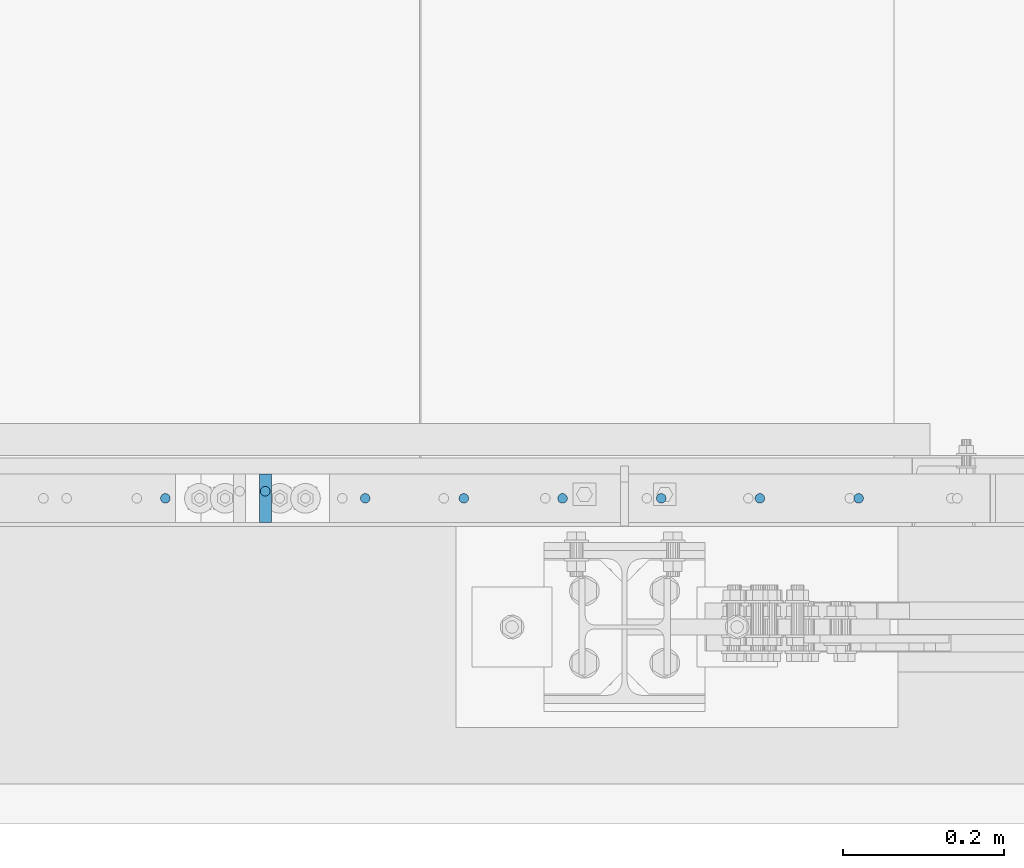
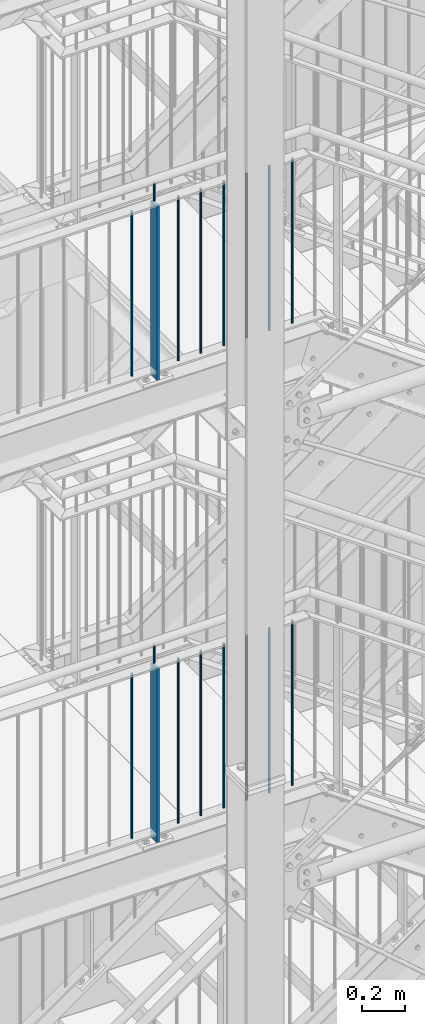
# One storey, part 10 of 825: 18 columns.
"""IFC2X3 building model written with IfcOpenShell, lengths in millimetres."""

from ifc_helpers import new_model, entity, si_unit, converted_unit, frame, origin, origin_with_axes, origin_2d, place, context, project, spatial, rectangle, circle, extrude, clip, halfspace, material, element, save


model = new_model("IFC2X3")

# Units and contexts
model_context = context("Model", 3, precision=1e-09, world=origin_with_axes())
ifc_project = project(units=[si_unit("LENGTHUNIT", "METRE", prefix="MILLI"), si_unit("AREAUNIT", "SQUARE_METRE"), si_unit("VOLUMEUNIT", "CUBIC_METRE"), converted_unit("PLANEANGLEUNIT", "DEGREE", entity("IfcPlaneAngleMeasure", 0.01745329), si_unit("PLANEANGLEUNIT", "RADIAN"), dimensions=[0, 0, 0, 0, 0, 0, 0])], contexts=[model_context])

# Site, building, storey
site_placement = place(None, origin_with_axes())
site = spatial("IfcSite", under=ifc_project, at=site_placement, Name="Cnopf'sche Kinderklinik", CompositionType="ELEMENT")
building_placement = place(site_placement, origin_with_axes())
building = spatial("IfcBuilding", under=site, at=building_placement, Name="Struktur 1", CompositionType="ELEMENT")
storey_placement = place(building_placement, origin_with_axes())
storey = spatial("IfcBuildingStorey", under=building, at=storey_placement, Name="Default Storey", CompositionType="ELEMENT", Elevation=0.0)

# Columns
ifc_material = material(Name="S235JR")
column_1_placement = place(None, frame((4409.791688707, 4526.736971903, 8359.723292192), z_axis=(0.0, 0.0, 1.0), x_axis=(-1.0, 0.0, 0.0)))
element("IfcColumn", 1, at=column_1_placement, inside=storey, material=ifc_material, Name="Railing_Post_Landing#12", ObjectType="Railing_Post_Landing#12", context=model_context, shape_type="Clipping", body=[
    clip(clip(extrude(rectangle(XDim=15.0, YDim=60.0, at=origin_2d()), origin(), (0.0, 0.0, -1.0), 1070.646584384), halfspace(frame((4409.791688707, 4526.736971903, -1019.722292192), z_axis=(0.0, 0.0, 1.0), x_axis=(-1.0, 0.0, 0.0)), True)), halfspace(frame((4409.791688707, 4526.736971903, -30.924292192), z_axis=(0.0, 0.0, -1.0), x_axis=(1.0, 0.0, 0.0)), True)),
])
column_2_placement = place(None, frame((5147.791807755, 4526.736971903, 8342.285281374), z_axis=(0.0, 0.0, 1.0), x_axis=(-1.0, 0.0, 0.0)))
element("IfcColumn", 2, at=column_2_placement, inside=storey, material=ifc_material, Name="Railing_Picket_Landing#77", ObjectType="Railing_Picket_Landing#77", context=model_context, shape_type="Clipping", body=[
    clip(clip(extrude(circle(Radius=6.0, at=origin_2d()), origin(), (0.0, 0.0, -1.0), 965.770562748), halfspace(frame((5147.791807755, 4526.736971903, -13.486281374), z_axis=(0.0, 0.0, -1.0), x_axis=(1.0, 0.0, 0.0)), True)), halfspace(frame((5147.791807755, 4526.736971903, -952.284281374), z_axis=(0.0, 0.0, 1.0), x_axis=(-1.0, 0.0, 0.0)), True)),
])
column_3_placement = place(None, frame((5025.041783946, 4526.736971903, 8342.285281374), z_axis=(0.0, 0.0, 1.0), x_axis=(-1.0, 0.0, 0.0)))
element("IfcColumn", 3, at=column_3_placement, inside=storey, material=ifc_material, Name="Railing_Picket_Landing#78", ObjectType="Railing_Picket_Landing#78", context=model_context, shape_type="Clipping", body=[
    clip(clip(extrude(circle(Radius=6.0, at=origin_2d()), origin(), (0.0, 0.0, -1.0), 965.770562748), halfspace(frame((5025.041783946, 4526.736971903, -13.486281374), z_axis=(0.0, 0.0, -1.0), x_axis=(1.0, 0.0, 0.0)), True)), halfspace(frame((5025.041783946, 4526.736971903, -952.284281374), z_axis=(0.0, 0.0, 1.0), x_axis=(-1.0, 0.0, 0.0)), True)),
])
column_4_placement = place(None, frame((4902.291760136, 4526.736971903, 8342.285281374), z_axis=(0.0, 0.0, 1.0), x_axis=(-1.0, 0.0, 0.0)))
element("IfcColumn", 4, at=column_4_placement, inside=storey, material=ifc_material, Name="Railing_Picket_Landing#79", ObjectType="Railing_Picket_Landing#79", context=model_context, shape_type="Clipping", body=[
    clip(clip(extrude(circle(Radius=6.0, at=origin_2d()), origin(), (0.0, 0.0, -1.0), 965.770562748), halfspace(frame((4902.291760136, 4526.736971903, -13.486281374), z_axis=(0.0, 0.0, -1.0), x_axis=(1.0, 0.0, 0.0)), True)), halfspace(frame((4902.291760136, 4526.736971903, -952.284281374), z_axis=(0.0, 0.0, 1.0), x_axis=(-1.0, 0.0, 0.0)), True)),
])
column_5_placement = place(None, frame((4779.541736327, 4526.736971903, 8342.285281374), z_axis=(0.0, 0.0, 1.0), x_axis=(-1.0, 0.0, 0.0)))
element("IfcColumn", 5, at=column_5_placement, inside=storey, material=ifc_material, Name="Railing_Picket_Landing#80", ObjectType="Railing_Picket_Landing#80", context=model_context, shape_type="Clipping", body=[
    clip(clip(extrude(circle(Radius=6.0, at=origin_2d()), origin(), (0.0, 0.0, -1.0), 965.770562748), halfspace(frame((4779.541736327, 4526.736971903, -13.486281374), z_axis=(0.0, 0.0, -1.0), x_axis=(1.0, 0.0, 0.0)), True)), halfspace(frame((4779.541736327, 4526.736971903, -952.284281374), z_axis=(0.0, 0.0, 1.0), x_axis=(-1.0, 0.0, 0.0)), True)),
])
column_6_placement = place(None, frame((4656.791712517, 4526.736971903, 8342.285281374), z_axis=(0.0, 0.0, 1.0), x_axis=(-1.0, 0.0, 0.0)))
element("IfcColumn", 6, at=column_6_placement, inside=storey, material=ifc_material, Name="Railing_Picket_Landing#81", ObjectType="Railing_Picket_Landing#81", context=model_context, shape_type="Clipping", body=[
    clip(clip(extrude(circle(Radius=6.0, at=origin_2d()), origin(), (0.0, 0.0, -1.0), 965.770562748), halfspace(frame((4656.791712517, 4526.736971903, -13.486281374), z_axis=(0.0, 0.0, -1.0), x_axis=(1.0, 0.0, 0.0)), True)), halfspace(frame((4656.791712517, 4526.736971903, -952.284281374), z_axis=(0.0, 0.0, 1.0), x_axis=(-1.0, 0.0, 0.0)), True)),
])
column_7_placement = place(None, frame((4534.041688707, 4526.736971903, 8342.285281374), z_axis=(0.0, 0.0, 1.0), x_axis=(-1.0, 0.0, 0.0)))
element("IfcColumn", 7, at=column_7_placement, inside=storey, material=ifc_material, Name="Railing_Picket_Landing#82", ObjectType="Railing_Picket_Landing#82", context=model_context, shape_type="Clipping", body=[
    clip(clip(extrude(circle(Radius=6.0, at=origin_2d()), origin(), (0.0, 0.0, -1.0), 965.770562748), halfspace(frame((4534.041688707, 4526.736971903, -13.486281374), z_axis=(0.0, 0.0, -1.0), x_axis=(1.0, 0.0, 0.0)), True)), halfspace(frame((4534.041688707, 4526.736971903, -952.284281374), z_axis=(0.0, 0.0, 1.0), x_axis=(-1.0, 0.0, 0.0)), True)),
])
column_8_placement = place(None, frame((4285.541688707, 4526.736971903, 8342.285281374), z_axis=(0.0, 0.0, 1.0), x_axis=(-1.0, 0.0, 0.0)))
element("IfcColumn", 8, at=column_8_placement, inside=storey, material=ifc_material, Name="Railing_Picket_Landing#83", ObjectType="Railing_Picket_Landing#83", context=model_context, shape_type="Clipping", body=[
    clip(clip(extrude(circle(Radius=6.0, at=origin_2d()), origin(), (0.0, 0.0, -1.0), 965.770562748), halfspace(frame((4285.541688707, 4526.736971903, -13.486281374), z_axis=(0.0, 0.0, -1.0), x_axis=(1.0, 0.0, 0.0)), True)), halfspace(frame((4285.541688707, 4526.736971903, -952.284281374), z_axis=(0.0, 0.0, 1.0), x_axis=(-1.0, 0.0, 0.0)), True)),
])
column_9_placement = place(None, frame((4409.791688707, 4535.536971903, 8447.285281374), z_axis=(0.0, 0.0, 1.0), x_axis=(0.0, 1.0, 0.0)))
element("IfcColumn", 9, at=column_9_placement, inside=storey, material=ifc_material, Name="Bar#12", ObjectType="Bar#12", context=model_context, shape_type="Clipping", body=[
    clip(clip(extrude(circle(Radius=6.0, at=origin_2d()), origin(), (0.0, 0.0, -1.0), 116.970562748), halfspace(frame((-4535.536971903, 4409.791688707, -8.486281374), z_axis=(0.0, 0.0, -1.0), x_axis=(0.0, 1.0, 0.0)), True)), halfspace(frame((-4535.536971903, 4409.791688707, -108.484281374), z_axis=(0.0, 0.0, 1.0), x_axis=(0.0, -1.0, 0.0)), True)),
])
column_10_placement = place(None, frame((4409.791688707, 4526.736971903, 10991.723292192), z_axis=(0.0, 0.0, 1.0), x_axis=(-1.0, 0.0, 0.0)))
element("IfcColumn", 10, at=column_10_placement, inside=storey, material=ifc_material, Name="Railing_Post_Landing#12", ObjectType="Railing_Post_Landing#12", context=model_context, shape_type="Clipping", body=[
    clip(clip(extrude(rectangle(XDim=15.0, YDim=60.0, at=origin_2d()), origin(), (0.0, 0.0, -1.0), 1070.646584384), halfspace(frame((4409.791688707, 4526.736971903, -1019.722292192), z_axis=(0.0, 0.0, 1.0), x_axis=(-1.0, 0.0, 0.0)), True)), halfspace(frame((4409.791688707, 4526.736971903, -30.924292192), z_axis=(0.0, 0.0, -1.0), x_axis=(1.0, 0.0, 0.0)), True)),
])
column_11_placement = place(None, frame((5147.791807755, 4526.736971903, 10974.285281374), z_axis=(0.0, 0.0, 1.0), x_axis=(-1.0, 0.0, 0.0)))
element("IfcColumn", 11, at=column_11_placement, inside=storey, material=ifc_material, Name="Railing_Picket_Landing#77", ObjectType="Railing_Picket_Landing#77", context=model_context, shape_type="Clipping", body=[
    clip(clip(extrude(circle(Radius=6.0, at=origin_2d()), origin(), (0.0, 0.0, -1.0), 965.770562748), halfspace(frame((5147.791807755, 4526.736971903, -13.486281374), z_axis=(0.0, 0.0, -1.0), x_axis=(1.0, 0.0, 0.0)), True)), halfspace(frame((5147.791807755, 4526.736971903, -952.284281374), z_axis=(0.0, 0.0, 1.0), x_axis=(-1.0, 0.0, 0.0)), True)),
])
column_12_placement = place(None, frame((5025.041783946, 4526.736971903, 10974.285281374), z_axis=(0.0, 0.0, 1.0), x_axis=(-1.0, 0.0, 0.0)))
element("IfcColumn", 12, at=column_12_placement, inside=storey, material=ifc_material, Name="Railing_Picket_Landing#78", ObjectType="Railing_Picket_Landing#78", context=model_context, shape_type="Clipping", body=[
    clip(clip(extrude(circle(Radius=6.0, at=origin_2d()), origin(), (0.0, 0.0, -1.0), 965.770562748), halfspace(frame((5025.041783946, 4526.736971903, -13.486281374), z_axis=(0.0, 0.0, -1.0), x_axis=(1.0, 0.0, 0.0)), True)), halfspace(frame((5025.041783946, 4526.736971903, -952.284281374), z_axis=(0.0, 0.0, 1.0), x_axis=(-1.0, 0.0, 0.0)), True)),
])
column_13_placement = place(None, frame((4902.291760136, 4526.736971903, 10974.285281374), z_axis=(0.0, 0.0, 1.0), x_axis=(-1.0, 0.0, 0.0)))
element("IfcColumn", 13, at=column_13_placement, inside=storey, material=ifc_material, Name="Railing_Picket_Landing#79", ObjectType="Railing_Picket_Landing#79", context=model_context, shape_type="Clipping", body=[
    clip(clip(extrude(circle(Radius=6.0, at=origin_2d()), origin(), (0.0, 0.0, -1.0), 965.770562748), halfspace(frame((4902.291760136, 4526.736971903, -13.486281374), z_axis=(0.0, 0.0, -1.0), x_axis=(1.0, 0.0, 0.0)), True)), halfspace(frame((4902.291760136, 4526.736971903, -952.284281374), z_axis=(0.0, 0.0, 1.0), x_axis=(-1.0, 0.0, 0.0)), True)),
])
column_14_placement = place(None, frame((4779.541736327, 4526.736971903, 10974.285281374), z_axis=(0.0, 0.0, 1.0), x_axis=(-1.0, 0.0, 0.0)))
element("IfcColumn", 14, at=column_14_placement, inside=storey, material=ifc_material, Name="Railing_Picket_Landing#80", ObjectType="Railing_Picket_Landing#80", context=model_context, shape_type="Clipping", body=[
    clip(clip(extrude(circle(Radius=6.0, at=origin_2d()), origin(), (0.0, 0.0, -1.0), 965.770562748), halfspace(frame((4779.541736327, 4526.736971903, -13.486281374), z_axis=(0.0, 0.0, -1.0), x_axis=(1.0, 0.0, 0.0)), True)), halfspace(frame((4779.541736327, 4526.736971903, -952.284281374), z_axis=(0.0, 0.0, 1.0), x_axis=(-1.0, 0.0, 0.0)), True)),
])
column_15_placement = place(None, frame((4656.791712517, 4526.736971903, 10974.285281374), z_axis=(0.0, 0.0, 1.0), x_axis=(-1.0, 0.0, 0.0)))
element("IfcColumn", 15, at=column_15_placement, inside=storey, material=ifc_material, Name="Railing_Picket_Landing#81", ObjectType="Railing_Picket_Landing#81", context=model_context, shape_type="Clipping", body=[
    clip(clip(extrude(circle(Radius=6.0, at=origin_2d()), origin(), (0.0, 0.0, -1.0), 965.770562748), halfspace(frame((4656.791712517, 4526.736971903, -13.486281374), z_axis=(0.0, 0.0, -1.0), x_axis=(1.0, 0.0, 0.0)), True)), halfspace(frame((4656.791712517, 4526.736971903, -952.284281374), z_axis=(0.0, 0.0, 1.0), x_axis=(-1.0, 0.0, 0.0)), True)),
])
column_16_placement = place(None, frame((4534.041688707, 4526.736971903, 10974.285281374), z_axis=(0.0, 0.0, 1.0), x_axis=(-1.0, 0.0, 0.0)))
element("IfcColumn", 16, at=column_16_placement, inside=storey, material=ifc_material, Name="Railing_Picket_Landing#82", ObjectType="Railing_Picket_Landing#82", context=model_context, shape_type="Clipping", body=[
    clip(clip(extrude(circle(Radius=6.0, at=origin_2d()), origin(), (0.0, 0.0, -1.0), 965.770562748), halfspace(frame((4534.041688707, 4526.736971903, -13.486281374), z_axis=(0.0, 0.0, -1.0), x_axis=(1.0, 0.0, 0.0)), True)), halfspace(frame((4534.041688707, 4526.736971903, -952.284281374), z_axis=(0.0, 0.0, 1.0), x_axis=(-1.0, 0.0, 0.0)), True)),
])
column_17_placement = place(None, frame((4285.541688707, 4526.736971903, 10974.285281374), z_axis=(0.0, 0.0, 1.0), x_axis=(-1.0, 0.0, 0.0)))
element("IfcColumn", 17, at=column_17_placement, inside=storey, material=ifc_material, Name="Railing_Picket_Landing#83", ObjectType="Railing_Picket_Landing#83", context=model_context, shape_type="Clipping", body=[
    clip(clip(extrude(circle(Radius=6.0, at=origin_2d()), origin(), (0.0, 0.0, -1.0), 965.770562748), halfspace(frame((4285.541688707, 4526.736971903, -13.486281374), z_axis=(0.0, 0.0, -1.0), x_axis=(1.0, 0.0, 0.0)), True)), halfspace(frame((4285.541688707, 4526.736971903, -952.284281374), z_axis=(0.0, 0.0, 1.0), x_axis=(-1.0, 0.0, 0.0)), True)),
])
column_18_placement = place(None, frame((4409.791688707, 4535.536971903, 11079.285281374), z_axis=(0.0, 0.0, 1.0), x_axis=(0.0, 1.0, 0.0)))
element("IfcColumn", 18, at=column_18_placement, inside=storey, material=ifc_material, Name="Bar#12", ObjectType="Bar#12", context=model_context, shape_type="Clipping", body=[
    clip(clip(extrude(circle(Radius=6.0, at=origin_2d()), origin(), (0.0, 0.0, -1.0), 116.970562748), halfspace(frame((-4535.536971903, 4409.791688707, -8.486281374), z_axis=(0.0, 0.0, -1.0), x_axis=(0.0, 1.0, 0.0)), True)), halfspace(frame((-4535.536971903, 4409.791688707, -108.484281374), z_axis=(0.0, 0.0, 1.0), x_axis=(0.0, -1.0, 0.0)), True)),
])

save(model, "model.ifc")
